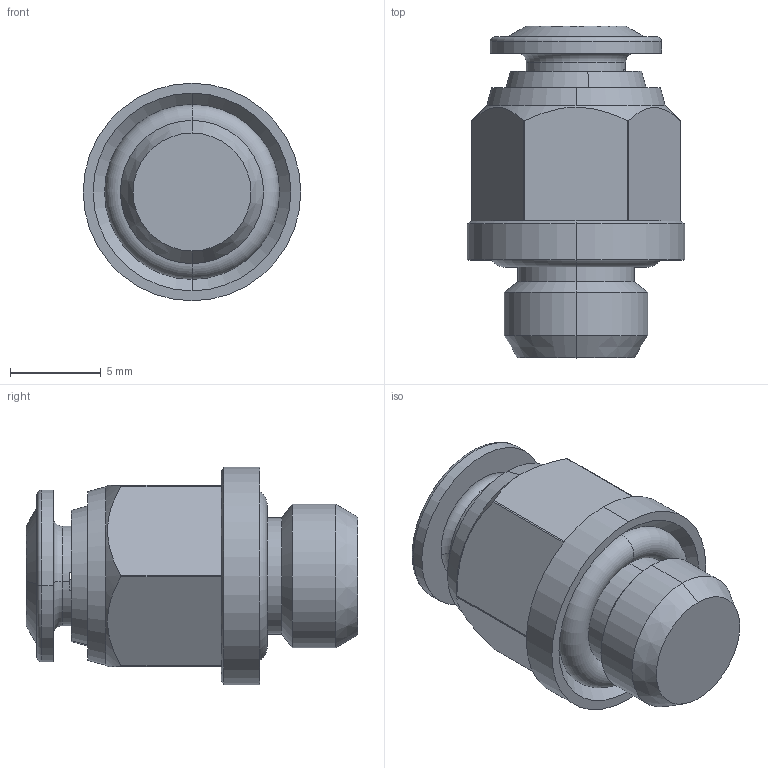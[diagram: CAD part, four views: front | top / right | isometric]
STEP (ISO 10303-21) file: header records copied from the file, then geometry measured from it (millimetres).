
FILE_DESCRIPTION (( 'STEP AP203' ), '1' );
FILE_NAME ('5702000044.STEP', '2020-09-07T07:45:16', ( '' ), ( '' ), 'SwSTEP 2.0', 'SolidWorks 2016', '' );
FILE_SCHEMA (( 'CONFIG_CONTROL_DESIGN' ));
Length unit declared in the file: millimetre
Products named in the file (1): 5702000044
Bounding box: 12 x 18.3 x 12 mm (x, y, z)
Volume: 1229.1 mm3; surface area: 903.6 mm2
Topology: 1 solids, 1 shells, 59 faces, 136 edges, 84 vertices
Faces by surface type: plane 23, cone 18, cylinder 12, torus 6
Entity records: 1819 total; most frequent: CARTESIAN_POINT 352, DIRECTION 320, ORIENTED_EDGE 272, EDGE_CURVE 136, AXIS2_PLACEMENT_3D 132, VERTEX_POINT 84, CIRCLE 72, EDGE_LOOP 66
